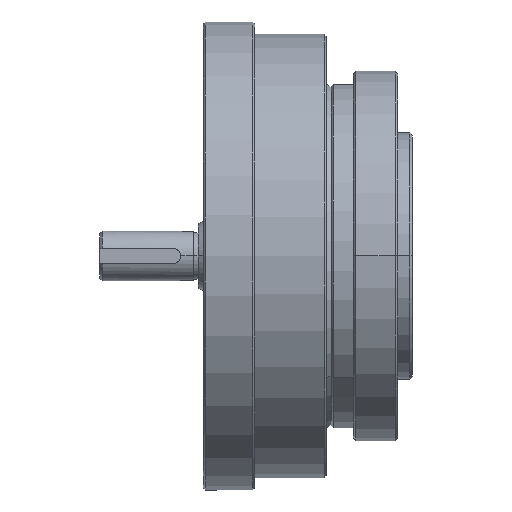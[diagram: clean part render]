
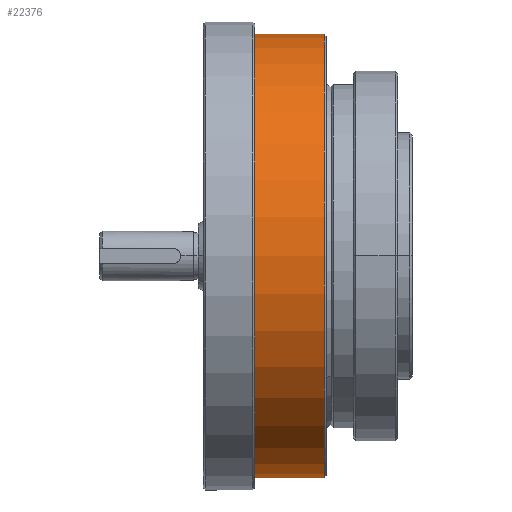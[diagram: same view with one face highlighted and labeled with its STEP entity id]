
A CAD part, top view. The second image highlights one B-rep face of the part: STEP entity #22376.
In plain terms, the highlighted cylindrical face has radius 45 mm (diameter 90 mm), a partial arc.
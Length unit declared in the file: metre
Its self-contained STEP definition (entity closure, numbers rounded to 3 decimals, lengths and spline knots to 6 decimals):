
#856 = CIRCLE ( 'NONE', #59273, 0.045 ) ;
#952 = DIRECTION ( 'NONE',  ( -1., 0., 0. ) ) ;
#1474 = VERTEX_POINT ( 'NONE', #2897 ) ;
#2897 = CARTESIAN_POINT ( 'NONE',  ( 0.0456, -0.045, 0. ) ) ;
#3237 = DIRECTION ( 'NONE',  ( -1., 0., 0. ) ) ;
#7189 = CARTESIAN_POINT ( 'NONE',  ( 0.0456, 0.045, 0. ) ) ;
#7544 = CARTESIAN_POINT ( 'NONE',  ( 0.0456, 0., 0. ) ) ;
#7986 = VERTEX_POINT ( 'NONE', #29173 ) ;
#9613 = VECTOR ( 'NONE', #952, 1. ) ;
#11000 = EDGE_CURVE ( 'NONE', #53880, #37131, #54972, .T. ) ;
#13859 = CARTESIAN_POINT ( 'NONE',  ( 0.025831, 0.045, 0. ) ) ;
#14195 = CARTESIAN_POINT ( 'NONE',  ( 0.0289, 0.045, 0. ) ) ;
#14836 = CIRCLE ( 'NONE', #34033, 0.045 ) ;
#18149 = ORIENTED_EDGE ( 'NONE', *, *, #44097, .T. ) ;
#22376 = ADVANCED_FACE ( 'NONE', ( #30211 ), #39520, .T. ) ;
#25829 = DIRECTION ( 'NONE',  ( -1., 0., 0. ) ) ;
#26302 = CARTESIAN_POINT ( 'NONE',  ( 0.025831, 0., 0. ) ) ;
#27443 = ORIENTED_EDGE ( 'NONE', *, *, #36813, .F. ) ;
#28152 = EDGE_LOOP ( 'NONE', ( #27443, #53831, #41682, #18149 ) ) ;
#29173 = CARTESIAN_POINT ( 'NONE',  ( 0.0289, -0.045, 0. ) ) ;
#30211 = FACE_OUTER_BOUND ( 'NONE', #28152, .T. ) ;
#31124 = VECTOR ( 'NONE', #55261, 1. ) ;
#34033 = AXIS2_PLACEMENT_3D ( 'NONE', #7544, #25829, #35410 ) ;
#34195 = AXIS2_PLACEMENT_3D ( 'NONE', #26302, #3237, #58712 ) ;
#35410 = DIRECTION ( 'NONE',  ( 0., 1., 0. ) ) ;
#35440 = CARTESIAN_POINT ( 'NONE',  ( 0.0289, 0., 0. ) ) ;
#35741 = DIRECTION ( 'NONE',  ( 1., 0., 0. ) ) ;
#36813 = EDGE_CURVE ( 'NONE', #1474, #7986, #47439, .T. ) ;
#37131 = VERTEX_POINT ( 'NONE', #14195 ) ;
#38427 = CARTESIAN_POINT ( 'NONE',  ( 0.025831, -0.045, 0. ) ) ;
#39520 = CYLINDRICAL_SURFACE ( 'NONE', #34195, 0.045 ) ;
#41682 = ORIENTED_EDGE ( 'NONE', *, *, #11000, .T. ) ;
#44097 = EDGE_CURVE ( 'NONE', #37131, #7986, #856, .T. ) ;
#47439 = LINE ( 'NONE', #38427, #9613 ) ;
#53763 = DIRECTION ( 'NONE',  ( 0., 1., 0. ) ) ;
#53831 = ORIENTED_EDGE ( 'NONE', *, *, #58649, .T. ) ;
#53880 = VERTEX_POINT ( 'NONE', #7189 ) ;
#54972 = LINE ( 'NONE', #13859, #31124 ) ;
#55261 = DIRECTION ( 'NONE',  ( -1., 0., 0. ) ) ;
#58649 = EDGE_CURVE ( 'NONE', #1474, #53880, #14836, .T. ) ;
#58712 = DIRECTION ( 'NONE',  ( 0., 1., 0. ) ) ;
#59273 = AXIS2_PLACEMENT_3D ( 'NONE', #35440, #35741, #53763 ) ;
